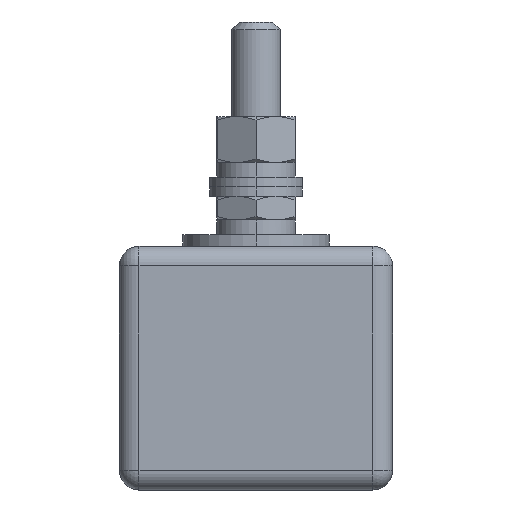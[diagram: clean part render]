
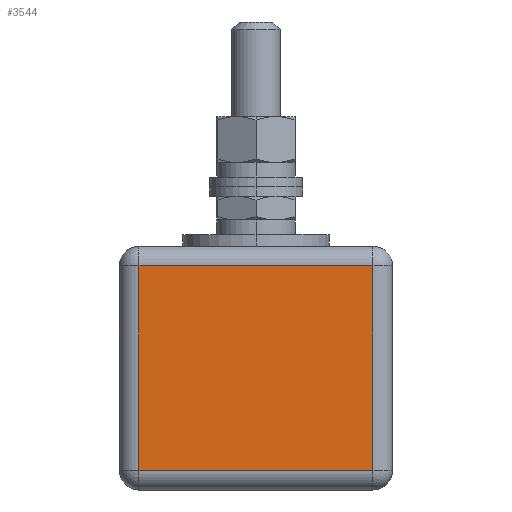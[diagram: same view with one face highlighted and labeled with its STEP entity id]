
A CAD part, left-side view. The second image highlights one B-rep face of the part: STEP entity #3544.
In plain terms, the highlighted planar face has unit normal (-1, 0, 0).
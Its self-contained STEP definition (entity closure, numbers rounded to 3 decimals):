
#3526 = EDGE_CURVE ( 'NONE', #3566, #3547, #6804, .T. ) ;
#3527 = EDGE_CURVE ( 'NONE', #3567, #3566, #6800, .T. ) ;
#3528 = ORIENTED_EDGE ( 'NONE', *, *, #3526, .T. ) ;
#3544 = ADVANCED_FACE ( 'NONE', ( #6834 ), #6877, .T. ) ;
#3545 = ORIENTED_EDGE ( 'NONE', *, *, #3546, .T. ) ;
#3546 = EDGE_CURVE ( 'NONE', #3547, #3548, #6872, .T. ) ;
#3547 = VERTEX_POINT ( 'NONE', #6868 ) ;
#3548 = VERTEX_POINT ( 'NONE', #6867 ) ;
#3564 = ORIENTED_EDGE ( 'NONE', *, *, #3527, .T. ) ;
#3566 = VERTEX_POINT ( 'NONE', #6920 ) ;
#3567 = VERTEX_POINT ( 'NONE', #6919 ) ;
#3610 = ORIENTED_EDGE ( 'NONE', *, *, #3611, .T. ) ;
#3611 = EDGE_CURVE ( 'NONE', #3548, #3567, #7053, .T. ) ;
#6797 = DIRECTION ( 'NONE',  ( 0., 1., 0. ) ) ;
#6798 = VECTOR ( 'NONE', #6797, 1000. ) ;
#6799 = CARTESIAN_POINT ( 'NONE',  ( -49., 14., 10.5 ) ) ;
#6800 = LINE ( 'NONE', #6799, #6798 ) ;
#6801 = DIRECTION ( 'NONE',  ( 0., 0., -1. ) ) ;
#6802 = VECTOR ( 'NONE', #6801, 1000. ) ;
#6803 = CARTESIAN_POINT ( 'NONE',  ( -49., 12., -12.5 ) ) ;
#6804 = LINE ( 'NONE', #6803, #6802 ) ;
#6834 = FACE_OUTER_BOUND ( 'NONE', #12233, .T. ) ;
#6867 = CARTESIAN_POINT ( 'NONE',  ( -49., -12., -10.5 ) ) ;
#6868 = CARTESIAN_POINT ( 'NONE',  ( -49., 12., -10.5 ) ) ;
#6869 = DIRECTION ( 'NONE',  ( 0., -1., 0. ) ) ;
#6870 = VECTOR ( 'NONE', #6869, 1000. ) ;
#6871 = CARTESIAN_POINT ( 'NONE',  ( -49., -14., -10.5 ) ) ;
#6872 = LINE ( 'NONE', #6871, #6870 ) ;
#6873 = DIRECTION ( 'NONE',  ( 0., 0., 1. ) ) ;
#6874 = DIRECTION ( 'NONE',  ( -1., 0., 0. ) ) ;
#6875 = CARTESIAN_POINT ( 'NONE',  ( -49., 14., -12.5 ) ) ;
#6876 = AXIS2_PLACEMENT_3D ( 'NONE', #6875, #6874, #6873 ) ;
#6877 = PLANE ( 'NONE',  #6876 ) ;
#6919 = CARTESIAN_POINT ( 'NONE',  ( -49., -12., 10.5 ) ) ;
#6920 = CARTESIAN_POINT ( 'NONE',  ( -49., 12., 10.5 ) ) ;
#7050 = DIRECTION ( 'NONE',  ( 0., 0., 1. ) ) ;
#7051 = VECTOR ( 'NONE', #7050, 1000. ) ;
#7052 = CARTESIAN_POINT ( 'NONE',  ( -49., -12., -12.5 ) ) ;
#7053 = LINE ( 'NONE', #7052, #7051 ) ;
#12233 = EDGE_LOOP ( 'NONE', ( #3545, #3610, #3564, #3528 ) ) ;
